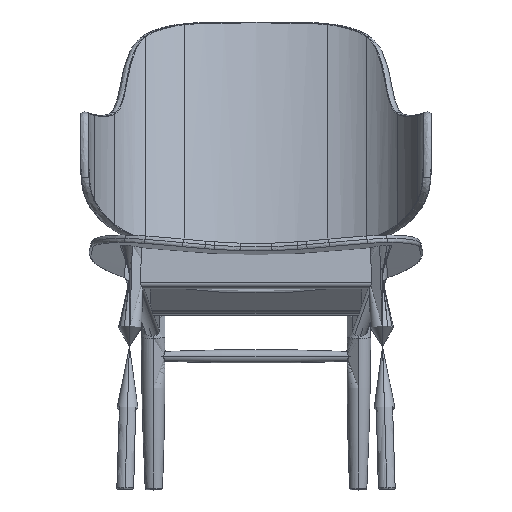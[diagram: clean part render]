
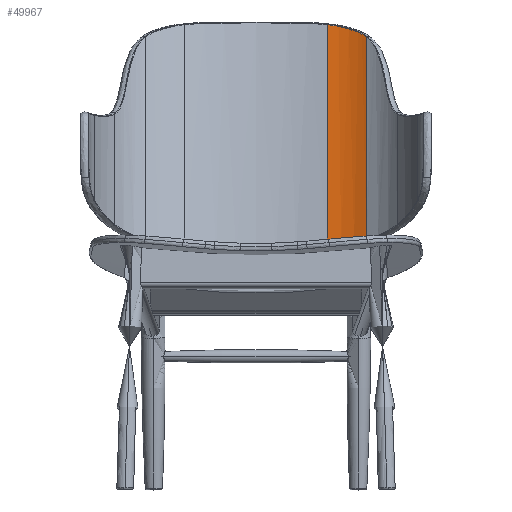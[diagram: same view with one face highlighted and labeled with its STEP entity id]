
A CAD part, top view. The second image highlights one B-rep face of the part: STEP entity #49967.
In plain terms, the highlighted cylindrical face has radius 197 mm (diameter 394 mm), a partial arc.
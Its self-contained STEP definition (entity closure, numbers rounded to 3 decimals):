
#628 = VERTEX_POINT ( 'NONE', #41834 ) ;
#641 = CARTESIAN_POINT ( 'NONE',  ( 112.01, -188.031, -97.944 ) ) ;
#930 = EDGE_CURVE ( 'NONE', #7486, #45730, #34550, .T. ) ;
#1808 = CYLINDRICAL_SURFACE ( 'NONE', #44924, 197. ) ;
#1831 = DIRECTION ( 'NONE',  ( 0., 1., 0. ) ) ;
#2231 = CARTESIAN_POINT ( 'NONE',  ( 172.986, -182.127, -72.093 ) ) ;
#2716 = DIRECTION ( 'NONE',  ( 0., 1., 0. ) ) ;
#3891 = CARTESIAN_POINT ( 'NONE',  ( 114.233, 183.977, -97.418 ) ) ;
#3923 = CARTESIAN_POINT ( 'NONE',  ( 153.751, -184.413, -83.035 ) ) ;
#4511 = CARTESIAN_POINT ( 'NONE',  ( 151.131, 170.559, -84.227 ) ) ;
#4814 = CARTESIAN_POINT ( 'NONE',  ( 144.373, 173.895, -87.269 ) ) ;
#5270 = VERTEX_POINT ( 'NONE', #14729 ) ;
#6463 = FACE_OUTER_BOUND ( 'NONE', #24437, .T. ) ;
#6531 = CARTESIAN_POINT ( 'NONE',  ( 172.986, 0., -72.093 ) ) ;
#7013 = CARTESIAN_POINT ( 'NONE',  ( 169.514, 158.098, -74.269 ) ) ;
#7486 = VERTEX_POINT ( 'NONE', #641 ) ;
#7634 = CARTESIAN_POINT ( 'NONE',  ( 139.429, 176.073, -89.321 ) ) ;
#11443 = CARTESIAN_POINT ( 'NONE',  ( 66.7, 0., 93.775 ) ) ;
#12312 = CARTESIAN_POINT ( 'NONE',  ( 164.17, 162.587, -77.436 ) ) ;
#12321 = CARTESIAN_POINT ( 'NONE',  ( 129.222, 179.865, -93.054 ) ) ;
#12388 = VERTEX_POINT ( 'NONE', #45254 ) ;
#12620 = CARTESIAN_POINT ( 'NONE',  ( 116.423, 183.466, -96.86 ) ) ;
#13843 = CARTESIAN_POINT ( 'NONE',  ( 159.42, 165.77, -80.044 ) ) ;
#13917 = EDGE_CURVE ( 'NONE', #628, #5270, #59419, .T. ) ;
#14729 = CARTESIAN_POINT ( 'NONE',  ( 171.208, 156.489, -73.219 ) ) ;
#15029 = VECTOR ( 'NONE', #46686, 1000. ) ;
#16066 = CARTESIAN_POINT ( 'NONE',  ( 166.895, 160.415, -75.845 ) ) ;
#17471 = VERTEX_POINT ( 'NONE', #2231 ) ;
#18212 = CARTESIAN_POINT ( 'NONE',  ( 122.898, 181.793, -95.052 ) ) ;
#19135 = CARTESIAN_POINT ( 'NONE',  ( 145.351, 173.439, -86.847 ) ) ;
#20818 = ORIENTED_EDGE ( 'NONE', *, *, #13917, .F. ) ;
#21040 = CARTESIAN_POINT ( 'NONE',  ( 169.084, 158.493, -74.531 ) ) ;
#21345 = CARTESIAN_POINT ( 'NONE',  ( 170.368, 157.303, -73.743 ) ) ;
#23233 = CARTESIAN_POINT ( 'NONE',  ( 163.522, -183.318, -77.879 ) ) ;
#23499 = CARTESIAN_POINT ( 'NONE',  ( 158.52, 166.328, -80.521 ) ) ;
#23530 = CARTESIAN_POINT ( 'NONE',  ( 122.788, -187.239, -95.093 ) ) ;
#23636 = ORIENTED_EDGE ( 'NONE', *, *, #930, .F. ) ;
#24437 = EDGE_LOOP ( 'NONE', ( #43470, #38856, #20818, #52766, #23636, #26475 ) ) ;
#25132 = EDGE_CURVE ( 'NONE', #17471, #7486, #61109, .T. ) ;
#26043 = EDGE_CURVE ( 'NONE', #17471, #12388, #40789, .T. ) ;
#26475 = ORIENTED_EDGE ( 'NONE', *, *, #25132, .F. ) ;
#27473 = CARTESIAN_POINT ( 'NONE',  ( 171.813, 155.887, -72.841 ) ) ;
#27877 = CARTESIAN_POINT ( 'NONE',  ( 127.132, 180.538, -93.74 ) ) ;
#28190 = CARTESIAN_POINT ( 'NONE',  ( 156.703, 167.422, -81.467 ) ) ;
#28225 = CARTESIAN_POINT ( 'NONE',  ( 148.764, -184.928, -85.404 ) ) ;
#30394 = CARTESIAN_POINT ( 'NONE',  ( 160.31, 165.196, -79.564 ) ) ;
#31320 = CARTESIAN_POINT ( 'NONE',  ( 133.354, 178.433, -91.62 ) ) ;
#32857 = CARTESIAN_POINT ( 'NONE',  ( 153.012, 169.542, -83.323 ) ) ;
#33521 = CARTESIAN_POINT ( 'NONE',  ( 172.986, -182.127, -72.093 ) ) ;
#34550 = LINE ( 'NONE', #49478, #54824 ) ;
#36316 = CARTESIAN_POINT ( 'NONE',  ( 141.421, 175.229, -88.517 ) ) ;
#37863 = CARTESIAN_POINT ( 'NONE',  ( 160.31, 165.196, -79.564 ) ) ;
#38221 = CARTESIAN_POINT ( 'NONE',  ( 114.726, -187.851, -97.302 ) ) ;
#38856 = ORIENTED_EDGE ( 'NONE', *, *, #51304, .F. ) ;
#40062 = CARTESIAN_POINT ( 'NONE',  ( 171.208, 156.489, -73.219 ) ) ;
#40789 = LINE ( 'NONE', #6531, #15029 ) ;
#41209 = CARTESIAN_POINT ( 'NONE',  ( 172.403, 155.267, -72.467 ) ) ;
#41824 = CARTESIAN_POINT ( 'NONE',  ( 172.986, 154.642, -72.093 ) ) ;
#41834 = CARTESIAN_POINT ( 'NONE',  ( 160.31, 165.196, -79.564 ) ) ;
#41921 = CARTESIAN_POINT ( 'NONE',  ( 120.755, 182.374, -95.677 ) ) ;
#42229 = CARTESIAN_POINT ( 'NONE',  ( 148.26, 172.025, -85.552 ) ) ;
#42571 = CARTESIAN_POINT ( 'NONE',  ( 117.424, -187.649, -96.603 ) ) ;
#42881 = CARTESIAN_POINT ( 'NONE',  ( 112.01, -188.031, -97.944 ) ) ;
#43470 = ORIENTED_EDGE ( 'NONE', *, *, #26043, .T. ) ;
#44924 = AXIS2_PLACEMENT_3D ( 'NONE', #11443, #2716, #49453 ) ;
#45254 = CARTESIAN_POINT ( 'NONE',  ( 172.986, 154.642, -72.093 ) ) ;
#45730 = VERTEX_POINT ( 'NONE', #56464 ) ;
#46299 = CARTESIAN_POINT ( 'NONE',  ( 133.397, -186.376, -91.675 ) ) ;
#46568 = CARTESIAN_POINT ( 'NONE',  ( 112.01, 184.421, -97.944 ) ) ;
#46686 = DIRECTION ( 'NONE',  ( 0., 1., 0. ) ) ;
#47228 = CARTESIAN_POINT ( 'NONE',  ( 138.587, -185.912, -89.724 ) ) ;
#49453 = DIRECTION ( 'NONE',  ( 0., 0., 1. ) ) ;
#49478 = CARTESIAN_POINT ( 'NONE',  ( 112.01, 0., -97.944 ) ) ;
#49967 = ADVANCED_FACE ( 'NONE', ( #6463 ), #1808, .F. ) ;
#50340 = CARTESIAN_POINT ( 'NONE',  ( 135.395, 177.675, -90.873 ) ) ;
#50997 = B_SPLINE_CURVE_WITH_KNOTS ( 'NONE', 3,
 ( #51168, #27473, #41209, #41824 ),
 .UNSPECIFIED., .F., .F.,
 ( 4, 4 ),
 ( 0., 0.003 ),
 .UNSPECIFIED. ) ;
#51168 = CARTESIAN_POINT ( 'NONE',  ( 171.208, 156.489, -73.219 ) ) ;
#51188 = B_SPLINE_CURVE_WITH_KNOTS ( 'NONE', 3,
 ( #46568, #3891, #12620, #41921, #18212, #27877, #12321, #31320, #50340, #7634, #36316, #4814, #19135, #61531, #42229, #4511, #32857, #56552, #28190, #23499, #13843, #37863 ),
 .UNSPECIFIED., .F., .F.,
 ( 4, 2, 2, 2, 2, 2, 2, 2, 2, 2, 4 ),
 ( 0., 0.007, 0.014, 0.021, 0.028, 0.035, 0.038, 0.041, 0.048, 0.052, 0.055 ),
 .UNSPECIFIED. ) ;
#51304 = EDGE_CURVE ( 'NONE', #5270, #12388, #50997, .T. ) ;
#52766 = ORIENTED_EDGE ( 'NONE', *, *, #57352, .F. ) ;
#54094 = CARTESIAN_POINT ( 'NONE',  ( 167.782, 159.661, -75.318 ) ) ;
#54394 = CARTESIAN_POINT ( 'NONE',  ( 170.793, 156.903, -73.479 ) ) ;
#54824 = VECTOR ( 'NONE', #1831, 1000. ) ;
#56464 = CARTESIAN_POINT ( 'NONE',  ( 112.01, 184.421, -97.944 ) ) ;
#56552 = CARTESIAN_POINT ( 'NONE',  ( 155.786, 167.959, -81.935 ) ) ;
#56905 = CARTESIAN_POINT ( 'NONE',  ( 168.305, -182.733, -75.093 ) ) ;
#57352 = EDGE_CURVE ( 'NONE', #45730, #628, #51188, .T. ) ;
#58765 = CARTESIAN_POINT ( 'NONE',  ( 162.272, 163.929, -78.504 ) ) ;
#59419 = B_SPLINE_CURVE_WITH_KNOTS ( 'NONE', 3,
 ( #30394, #58765, #12312, #16066, #54094, #21040, #7013, #21345, #54394, #40062 ),
 .UNSPECIFIED., .F., .F.,
 ( 4, 2, 2, 2, 4 ),
 ( 0., 0.008, 0.011, 0.013, 0.015 ),
 .UNSPECIFIED. ) ;
#61109 = B_SPLINE_CURVE_WITH_KNOTS ( 'NONE', 3,
 ( #33521, #56905, #23233, #3923, #28225, #47228, #46299, #61262, #23530, #42571, #38221, #42881 ),
 .UNSPECIFIED., .F., .F.,
 ( 4, 2, 2, 2, 2, 4 ),
 ( 0., 0.017, 0.033, 0.05, 0.058, 0.067 ),
 .UNSPECIFIED. ) ;
#61262 = CARTESIAN_POINT ( 'NONE',  ( 125.456, -187.028, -94.28 ) ) ;
#61531 = CARTESIAN_POINT ( 'NONE',  ( 147.294, 172.504, -85.988 ) ) ;
